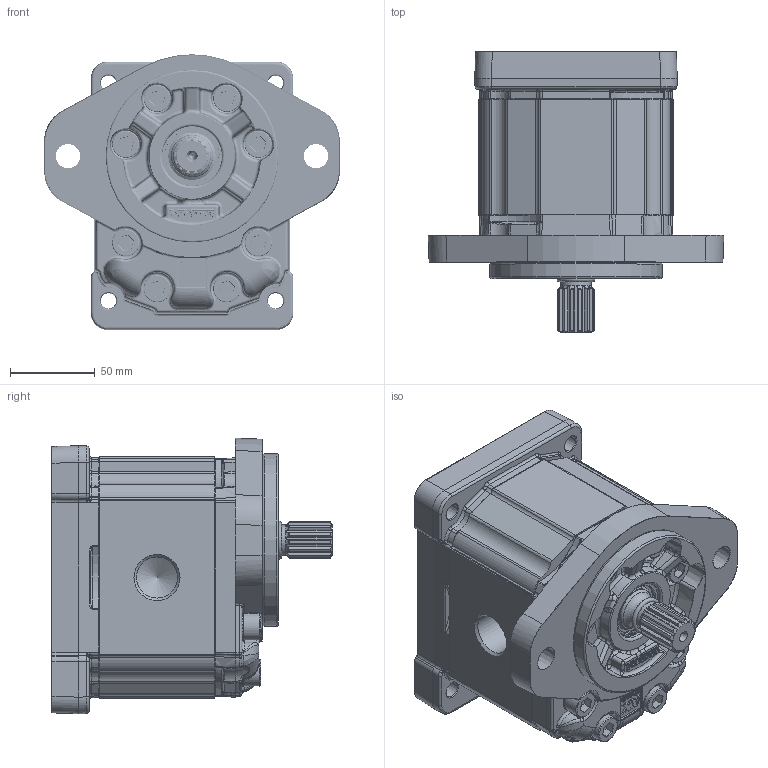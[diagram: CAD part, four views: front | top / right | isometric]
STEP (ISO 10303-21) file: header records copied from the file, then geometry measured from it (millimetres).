
FILE_DESCRIPTION(/* description */ ('Unknown'),/* implementation_level */ '2;1');
FILE_NAME(/* name */ 'X3T6832IDDA',/* time_stamp */ '2026-06-04T20:03:24+02:00',/* author */ ('Unknown'),/* organization */ ('Unknown'),/* preprocessor_version */ 'ST-DEVELOPER v16.7',/* originating_system */ 'Solid Edge',/* authorisation */ 'Unknown');
FILE_SCHEMA (('AUTOMOTIVE_DESIGN {1 0 10303 214 3 1 1}'));
Products named in the file (5): X3T6832IDDA; X3T32; 3I; X3DDH68; XT331-A
Assembly tree (4 placements, depth 2):
  X3T6832IDDA
    X3T32
    3I
    X3DDH68
    XT331-A
Bounding box: 174 x 165.2 x 162.2 mm (x, y, z)
Volume: 1879213.3 mm3; surface area: 235587.8 mm2
Topology: 5 solids, 6 shells, 4204 faces, 13006 edges, 8102 vertices
Faces by surface type: cylinder 1811, plane 1282, bspline 602, torus 263, cone 221, sphere 25
Full cylindrical faces by diameter (mm): 2 x2, 6.8 x4, 9.007 x4, 10 x16, 10.35 x32, 14.314 x1, 14.315 x1, 15.8 x16, 16 x16, 17 x2, 18 x2, 20.5 x1, 24.117 x2, 24.98 x2, 25 x2, 25.968 x1, 28.16 x1, 31 x1, 31.293 x1, 32.742 x1, 34.956 x1, 35 x2, 35.2 x1, 37 x1, 46.8 x1, 50.8 x1, 101.6 x1
Entity records: 236455 total; most frequent: CARTESIAN_POINT 100671, ORIENTED_EDGE 24916, DIRECTION 19728, EDGE_CURVE 12458, VERTEX_POINT 7920, AXIS2_PLACEMENT_3D 7717, FACE_BOUND 4684, EDGE_LOOP 4675
